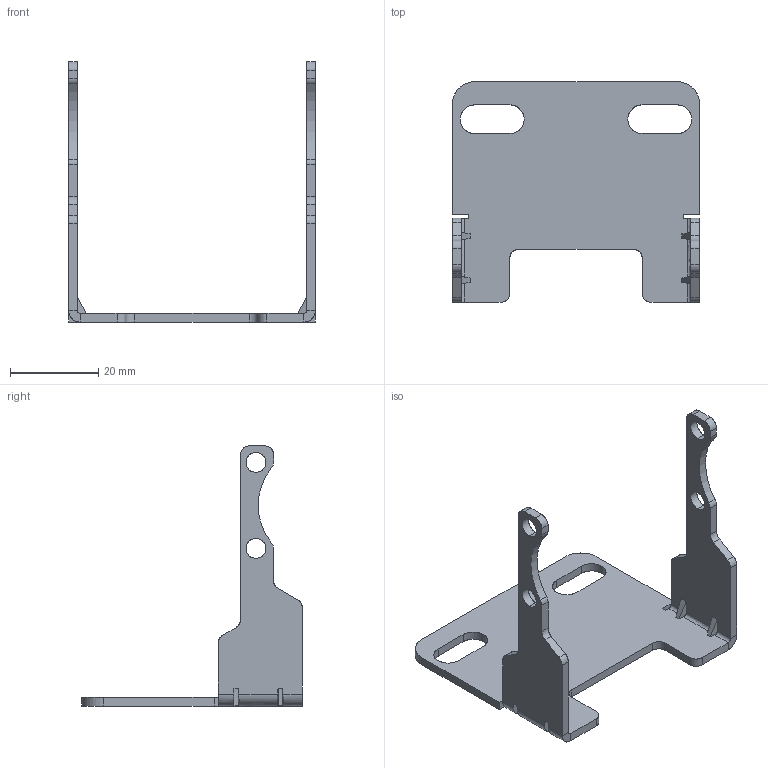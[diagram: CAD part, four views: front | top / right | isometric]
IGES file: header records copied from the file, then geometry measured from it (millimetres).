
Start section: SolidWorks IGES file using analytic representation for surfaces
Global section: file name: C:\Documents and Settings\Administrator\桌面\ZGNUFR／L-03MB.IGS,15; native system: HSolidWorks 2012; preprocessor: SolidWorks 2012; author: Administrator; date: 140703.161520; units: millimetre
Bounding box: 56 x 50 x 59 mm (x, y, z)
Surface area: 7997.9 mm2 (no closed solid volume)
Topology: 0 solids, 0 shells, 118 faces, 1760 edges, 2092 vertices
Faces by surface type: bspline 72, revolution 46
